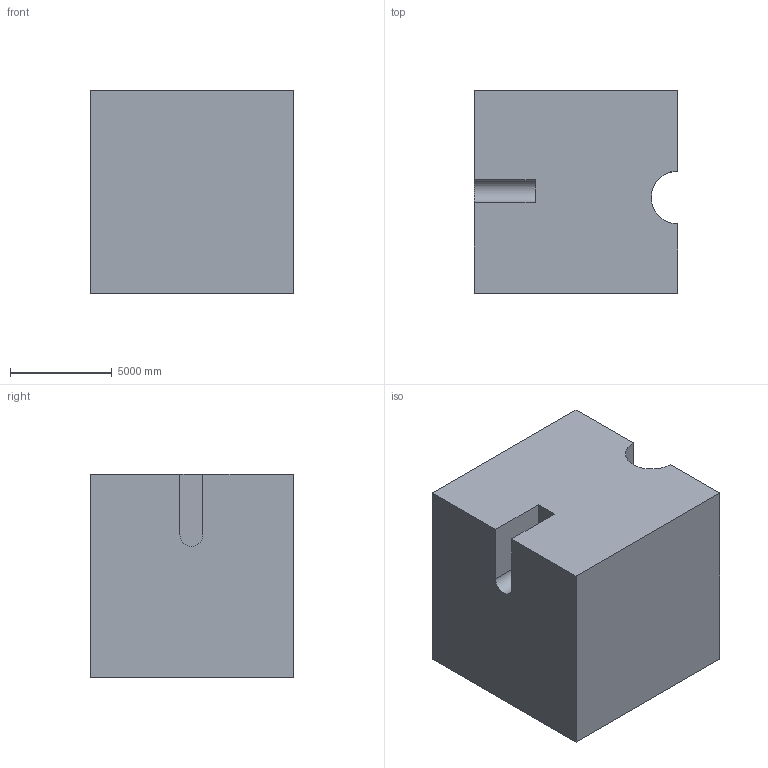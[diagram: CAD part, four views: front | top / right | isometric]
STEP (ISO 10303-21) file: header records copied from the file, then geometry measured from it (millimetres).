
FILE_DESCRIPTION (( 'STEP AP203' ), '1' );
FILE_NAME ('1158.STEP', '2022-08-18T12:59:21', ( 'user' ), ( '' ), 'SwSTEP 2.0', 'SolidWorks 2021', '' );
FILE_SCHEMA (( 'CONFIG_CONTROL_DESIGN' ));
Length unit declared in the file: centimetre
Products named in the file (1): 1158
Bounding box: 10000 x 10000 x 10000 mm (x, y, z)
Volume: 962056891563.6 mm3; surface area: 629243503.6 mm2
Topology: 1 solids, 1 shells, 12 faces, 30 edges, 20 vertices
Faces by surface type: plane 10, cylinder 2
Entity records: 435 total; most frequent: CARTESIAN_POINT 63, DIRECTION 60, ORIENTED_EDGE 60, EDGE_CURVE 30, VECTOR 26, LINE 26, VERTEX_POINT 20, AXIS2_PLACEMENT_3D 17
